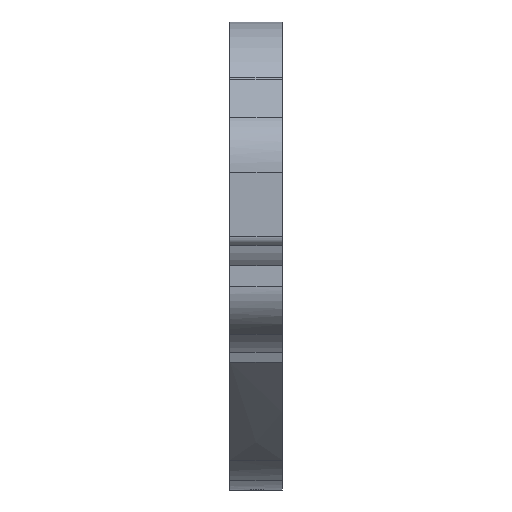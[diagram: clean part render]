
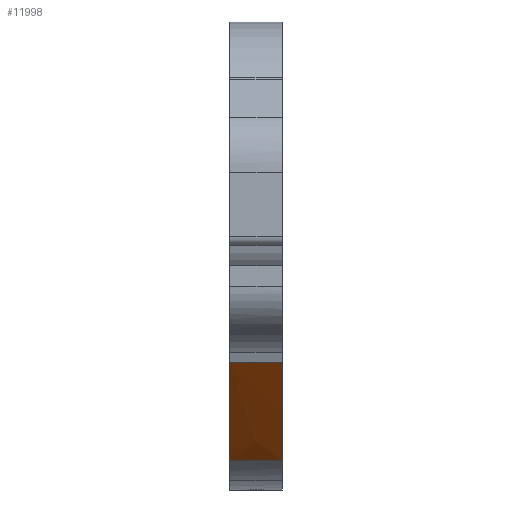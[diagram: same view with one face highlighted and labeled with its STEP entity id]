
A CAD part, left-side view. The second image highlights one B-rep face of the part: STEP entity #11998.
In plain terms, the highlighted free-form (B-spline) face has degree [3, 1] with [12, 2] control points.
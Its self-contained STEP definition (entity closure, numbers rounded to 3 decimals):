
#359 = LINE ( 'NONE', #12335, #1954 ) ;
#559 = CARTESIAN_POINT ( 'NONE',  ( 460.411, 7.766, 203.903 ) ) ;
#640 = VECTOR ( 'NONE', #12588, 1000. ) ;
#719 = CARTESIAN_POINT ( 'NONE',  ( 458.434, 1.886, 205.772 ) ) ;
#763 = CARTESIAN_POINT ( 'NONE',  ( 470.147, 7.766, 195.146 ) ) ;
#1044 = CARTESIAN_POINT ( 'NONE',  ( 468.555, 1.886, 196.463 ) ) ;
#1115 = CARTESIAN_POINT ( 'NONE',  ( 460.433, 1.886, 203.882 ) ) ;
#1533 = CARTESIAN_POINT ( 'NONE',  ( 469.04, 7.766, 196.049 ) ) ;
#1755 = VERTEX_POINT ( 'NONE', #9350 ) ;
#1809 = CARTESIAN_POINT ( 'NONE',  ( 470.445, 1.886, 194.922 ) ) ;
#1954 = VECTOR ( 'NONE', #8971, 1000. ) ;
#2005 = CARTESIAN_POINT ( 'NONE',  ( 470.703, 7.766, 194.745 ) ) ;
#2015 = CARTESIAN_POINT ( 'NONE',  ( 458.434, 1.886, 205.772 ) ) ;
#2453 = CARTESIAN_POINT ( 'NONE',  ( 468.555, 7.766, 196.462 ) ) ;
#2588 = CARTESIAN_POINT ( 'NONE',  ( 469.04, 1.886, 196.049 ) ) ;
#2651 = CARTESIAN_POINT ( 'NONE',  ( 458.434, 7.766, 205.772 ) ) ;
#2661 = CARTESIAN_POINT ( 'NONE',  ( 469.342, 7.766, 195.796 ) ) ;
#2725 = CARTESIAN_POINT ( 'NONE',  ( 469.452, 1.886, 195.702 ) ) ;
#2863 = CARTESIAN_POINT ( 'NONE',  ( 470.147, 1.886, 195.146 ) ) ;
#3065 = VERTEX_POINT ( 'NONE', #719 ) ;
#3504 = CARTESIAN_POINT ( 'NONE',  ( 458.434, 7.766, 205.772 ) ) ;
#3520 = EDGE_CURVE ( 'NONE', #1755, #3065, #11028, .T. ) ;
#3583 = CARTESIAN_POINT ( 'NONE',  ( 458.434, 7.766, 205.772 ) ) ;
#3677 = ORIENTED_EDGE ( 'NONE', *, *, #10416, .T. ) ;
#3835 = CARTESIAN_POINT ( 'NONE',  ( 460.411, 1.886, 203.903 ) ) ;
#4031 = CARTESIAN_POINT ( 'NONE',  ( 470.703, 3.146, 194.745 ) ) ;
#4119 = CARTESIAN_POINT ( 'NONE',  ( 468.037, 1.886, 196.916 ) ) ;
#4167 = B_SPLINE_SURFACE_WITH_KNOTS ( 'NONE', 3, 1, ( 
 ( #8964, #7848 ),
 ( #12122, #13247 ),
 ( #7568, #1809 ),
 ( #763, #2863 ),
 ( #9177, #6856 ),
 ( #9106, #2725 ),
 ( #1533, #2588 ),
 ( #10156, #12398 ),
 ( #12191, #4741 ),
 ( #11296, #8191 ),
 ( #559, #3835 ),
 ( #2651, #9314 ) ),
 .UNSPECIFIED., .F., .F., .F.,
 ( 4, 2, 2, 2, 2, 4 ),
 ( 2, 2 ),
 ( 0., 0.062, 0.125, 0.25, 0.5, 1. ),
 ( 0., 1. ),
 .UNSPECIFIED. ) ;
#4741 = CARTESIAN_POINT ( 'NONE',  ( 466.562, 1.886, 198.224 ) ) ;
#5749 = ORIENTED_EDGE ( 'NONE', *, *, #3520, .T. ) ;
#5821 = EDGE_CURVE ( 'NONE', #11621, #12213, #11914, .T. ) ;
#6361 = CARTESIAN_POINT ( 'NONE',  ( 470.558, 1.886, 194.84 ) ) ;
#6429 = CARTESIAN_POINT ( 'NONE',  ( 470.008, 1.886, 195.255 ) ) ;
#6798 = CARTESIAN_POINT ( 'NONE',  ( 470.558, 7.766, 194.84 ) ) ;
#6856 = CARTESIAN_POINT ( 'NONE',  ( 469.984, 1.886, 195.274 ) ) ;
#6934 = CARTESIAN_POINT ( 'NONE',  ( 470.419, 7.766, 194.941 ) ) ;
#7001 = CARTESIAN_POINT ( 'NONE',  ( 469.606, 7.766, 195.576 ) ) ;
#7129 = ORIENTED_EDGE ( 'NONE', *, *, #8985, .F. ) ;
#7349 = CARTESIAN_POINT ( 'NONE',  ( 469.342, 1.886, 195.797 ) ) ;
#7565 = CARTESIAN_POINT ( 'NONE',  ( 470.144, 1.886, 195.149 ) ) ;
#7568 = CARTESIAN_POINT ( 'NONE',  ( 470.445, 7.766, 194.922 ) ) ;
#7848 = CARTESIAN_POINT ( 'NONE',  ( 470.703, 1.886, 194.745 ) ) ;
#7924 = CARTESIAN_POINT ( 'NONE',  ( 462.439, 7.766, 202.001 ) ) ;
#8062 = CARTESIAN_POINT ( 'NONE',  ( 466.495, 7.766, 198.283 ) ) ;
#8191 = CARTESIAN_POINT ( 'NONE',  ( 463.042, 1.886, 201.434 ) ) ;
#8401 = CARTESIAN_POINT ( 'NONE',  ( 470.419, 1.886, 194.942 ) ) ;
#8964 = CARTESIAN_POINT ( 'NONE',  ( 470.703, 7.766, 194.745 ) ) ;
#8971 = DIRECTION ( 'NONE',  ( 0., -1., 0. ) ) ;
#8985 = EDGE_CURVE ( 'NONE', #11621, #3065, #359, .T. ) ;
#9106 = CARTESIAN_POINT ( 'NONE',  ( 469.452, 7.766, 195.702 ) ) ;
#9177 = CARTESIAN_POINT ( 'NONE',  ( 469.984, 7.766, 195.274 ) ) ;
#9314 = CARTESIAN_POINT ( 'NONE',  ( 458.434, 1.886, 205.772 ) ) ;
#9350 = CARTESIAN_POINT ( 'NONE',  ( 470.703, 1.886, 194.745 ) ) ;
#9659 = CARTESIAN_POINT ( 'NONE',  ( 465.477, 1.886, 199.21 ) ) ;
#10095 = CARTESIAN_POINT ( 'NONE',  ( 470.144, 7.766, 195.148 ) ) ;
#10156 = CARTESIAN_POINT ( 'NONE',  ( 467.664, 7.766, 197.237 ) ) ;
#10163 = EDGE_LOOP ( 'NONE', ( #5749, #7129, #13432, #3677 ) ) ;
#10416 = EDGE_CURVE ( 'NONE', #12213, #1755, #13638, .T. ) ;
#10722 = CARTESIAN_POINT ( 'NONE',  ( 462.439, 1.886, 202.001 ) ) ;
#11028 = B_SPLINE_CURVE_WITH_KNOTS ( 'NONE', 3,
 ( #13733, #6361, #8401, #7565, #6429, #12674, #7349, #1044, #4119, #12812, #9659, #10722, #1115, #2015 ),
 .UNSPECIFIED., .F., .F.,
 ( 4, 2, 2, 2, 2, 2, 4 ),
 ( 0., 0.001, 0.001, 0.002, 0.004, 0.008, 0.016 ),
 .UNSPECIFIED. ) ;
#11157 = CARTESIAN_POINT ( 'NONE',  ( 470.009, 7.766, 195.254 ) ) ;
#11296 = CARTESIAN_POINT ( 'NONE',  ( 463.042, 7.766, 201.434 ) ) ;
#11621 = VERTEX_POINT ( 'NONE', #3583 ) ;
#11914 = B_SPLINE_CURVE_WITH_KNOTS ( 'NONE', 3,
 ( #3504, #12129, #7924, #12061, #8062, #13393, #2453, #2661, #7001, #11157, #10095, #6934, #6798, #13323 ),
 .UNSPECIFIED., .F., .F.,
 ( 4, 2, 2, 2, 2, 2, 4 ),
 ( 0., 0.008, 0.012, 0.014, 0.015, 0.016, 0.017 ),
 .UNSPECIFIED. ) ;
#11998 = ADVANCED_FACE ( 'NONE', ( #13178 ), #4167, .F. ) ;
#12061 = CARTESIAN_POINT ( 'NONE',  ( 465.477, 7.766, 199.209 ) ) ;
#12122 = CARTESIAN_POINT ( 'NONE',  ( 470.578, 7.766, 194.827 ) ) ;
#12129 = CARTESIAN_POINT ( 'NONE',  ( 460.433, 7.766, 203.882 ) ) ;
#12191 = CARTESIAN_POINT ( 'NONE',  ( 466.562, 7.766, 198.224 ) ) ;
#12213 = VERTEX_POINT ( 'NONE', #2005 ) ;
#12335 = CARTESIAN_POINT ( 'NONE',  ( 458.434, 7.766, 205.772 ) ) ;
#12398 = CARTESIAN_POINT ( 'NONE',  ( 467.664, 1.886, 197.237 ) ) ;
#12588 = DIRECTION ( 'NONE',  ( 0., -1., 0. ) ) ;
#12674 = CARTESIAN_POINT ( 'NONE',  ( 469.606, 1.886, 195.577 ) ) ;
#12812 = CARTESIAN_POINT ( 'NONE',  ( 466.494, 1.886, 198.284 ) ) ;
#13178 = FACE_OUTER_BOUND ( 'NONE', #10163, .T. ) ;
#13247 = CARTESIAN_POINT ( 'NONE',  ( 470.578, 1.886, 194.827 ) ) ;
#13323 = CARTESIAN_POINT ( 'NONE',  ( 470.703, 7.766, 194.745 ) ) ;
#13393 = CARTESIAN_POINT ( 'NONE',  ( 468.038, 7.766, 196.915 ) ) ;
#13432 = ORIENTED_EDGE ( 'NONE', *, *, #5821, .T. ) ;
#13638 = LINE ( 'NONE', #4031, #640 ) ;
#13733 = CARTESIAN_POINT ( 'NONE',  ( 470.703, 1.886, 194.745 ) ) ;
